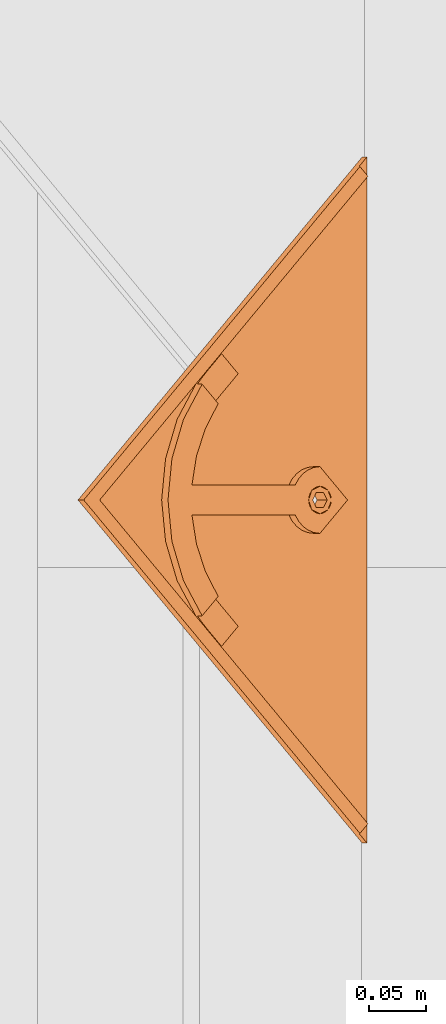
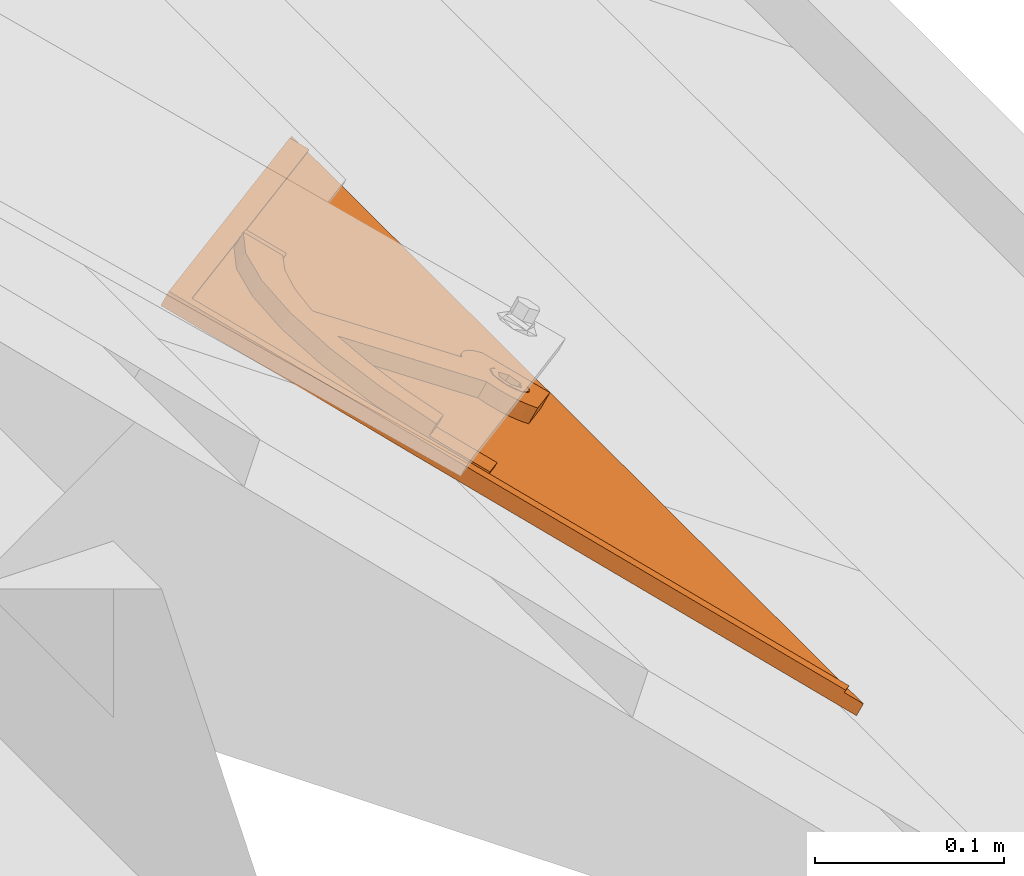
# One storey, part 130 of 151: 1 proxy.
"""IFC2X3 building model written with IfcOpenShell, lengths in millimetres."""

from ifc_helpers import new_model, entity, si_unit, converted_unit, derived_unit, direction, frame, origin, place, context, subcontext, project, spatial, faceted_brep, source, transform, mapped, material, material_list, type_object, type_shapes, element, save


model = new_model("IFC2X3")

# Units and contexts
model_context = context("Model", 3, precision=0.01, world=origin(), true_north=direction((6.12303176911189e-17, 1.0)))
body_context = subcontext(model_context, "Body", "Model", "MODEL_VIEW")
ifc_project = project(units=[si_unit("LENGTHUNIT", "METRE", prefix="MILLI"), si_unit("AREAUNIT", "SQUARE_METRE"), si_unit("VOLUMEUNIT", "CUBIC_METRE"), converted_unit("PLANEANGLEUNIT", "DEGREE", entity("IfcRatioMeasure", 0.0174532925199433), si_unit("PLANEANGLEUNIT", "RADIAN"), dimensions=[0, 0, 0, 0, 0, 0, 0]), si_unit("MASSUNIT", "GRAM", prefix="KILO"), derived_unit("MASSDENSITYUNIT", [(si_unit("MASSUNIT", "GRAM", prefix="KILO"), 1), (si_unit("LENGTHUNIT", "METRE"), -3)]), si_unit("TIMEUNIT", "SECOND"), si_unit("FREQUENCYUNIT", "HERTZ"), si_unit("THERMODYNAMICTEMPERATUREUNIT", "DEGREE_CELSIUS"), derived_unit("THERMALTRANSMITTANCEUNIT", [(si_unit("MASSUNIT", "GRAM", prefix="KILO"), 1), (si_unit("THERMODYNAMICTEMPERATUREUNIT", "KELVIN"), -1), (si_unit("TIMEUNIT", "SECOND"), -3)]), derived_unit("VOLUMETRICFLOWRATEUNIT", [(si_unit("LENGTHUNIT", "METRE"), 3), (si_unit("TIMEUNIT", "SECOND"), -1)]), si_unit("ELECTRICCURRENTUNIT", "AMPERE"), si_unit("ELECTRICVOLTAGEUNIT", "VOLT"), si_unit("POWERUNIT", "WATT"), si_unit("FORCEUNIT", "NEWTON", prefix="KILO"), si_unit("ILLUMINANCEUNIT", "LUX"), si_unit("LUMINOUSFLUXUNIT", "LUMEN"), si_unit("LUMINOUSINTENSITYUNIT", "CANDELA"), derived_unit("USERDEFINED", [(si_unit("MASSUNIT", "GRAM", prefix="KILO"), -1), (si_unit("LENGTHUNIT", "METRE"), -2), (si_unit("TIMEUNIT", "SECOND"), 3), (si_unit("LUMINOUSFLUXUNIT", "LUMEN"), 1)]), derived_unit("LINEARVELOCITYUNIT", [(si_unit("LENGTHUNIT", "METRE"), 1), (si_unit("TIMEUNIT", "SECOND"), -1)]), si_unit("PRESSUREUNIT", "PASCAL"), derived_unit("USERDEFINED", [(si_unit("LENGTHUNIT", "METRE"), -2), (si_unit("MASSUNIT", "GRAM", prefix="KILO"), 1), (si_unit("TIMEUNIT", "SECOND"), -2)])], contexts=[model_context])

# Site, building, storey
site_placement = place(None, origin())
site = spatial("IfcSite", under=ifc_project, at=site_placement, Name="Default", CompositionType="ELEMENT")
building_placement = place(site_placement, origin())
building = spatial("IfcBuilding", under=site, at=building_placement, CompositionType="ELEMENT")
storey_placement = place(building_placement, origin())
storey = spatial("IfcBuildingStorey", under=building, at=storey_placement, Name="Level 1", CompositionType="ELEMENT", Elevation=0.0)

# Proxy
ifc_material_1 = material(Name="Rubber - Sunstyle - Black")
ifc_material_2 = material(Name="Glass - Sunstyle - Tainted Black")
ifc_material_list_1 = material_list([ifc_material_1, ifc_material_2])
ifc_material_list_2 = material_list([ifc_material_1, ifc_material_2])
building_element_proxy_type = type_object("IfcBuildingElementProxyType", Name="Shingle Bottom Small - Black", PredefinedType="NOTDEFINED", material=ifc_material_list_2)
shared_shape = source(origin(), body_context, "Body", "Brep", [
    faceted_brep([(302.08842791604, 44.9093317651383, 22.0558382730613), (302.08842791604, 49.408700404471, 21.980485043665), (293.484723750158, 48.4726030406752, 21.9961623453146), (310.692132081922, 48.4726030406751, 21.9961623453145), (308.728656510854, 53.2419006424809, 21.9162884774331), (314.255903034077, 57.0751008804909, 21.8520919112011), (308.728656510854, 60.9083011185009, 21.7878953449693), (310.692132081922, 65.6775987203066, 21.7080214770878), (302.08842791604, 64.7415013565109, 21.7236987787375), (302.08842791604, 69.2408699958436, 21.6483455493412), (293.484723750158, 65.6775987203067, 21.708021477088), (295.448199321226, 60.908301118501, 21.7878953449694), (289.920952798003, 57.0751008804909, 21.8520919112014), (295.448199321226, 53.2419006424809, 21.9162884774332), (295.448199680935, 60.6403782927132, 5.79013870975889), (302.08842791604, 64.473578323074, 5.72594214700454), (295.448199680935, 52.9739782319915, 5.91853183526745), (302.08842791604, 49.1407782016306, 5.98272839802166), (308.728656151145, 52.9739782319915, 5.91853183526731), (308.728656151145, 60.6403782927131, 5.79013870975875), (293.484723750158, 48.2046804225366, 5.99840570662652), (302.08842791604, 44.6414091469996, 6.05808163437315), (289.920952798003, 56.8071782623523, 5.85433527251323), (293.484723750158, 65.4096761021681, 5.71026483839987), (302.08842791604, 68.972947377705, 5.65058891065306), (310.692132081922, 65.409676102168, 5.71026483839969), (314.255903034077, 56.8071782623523, 5.85433527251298), (310.692132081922, 48.2046804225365, 5.99840570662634)], [[[0, 1, 2]], [[1, 0, 3]], [[3, 4, 1]], [[4, 3, 5]], [[6, 4, 5]], [[5, 7, 6]], [[7, 8, 6]], [[8, 7, 9]], [[8, 9, 10]], [[10, 11, 8]], [[12, 11, 10]], [[2, 13, 12]], [[12, 13, 11]], [[13, 2, 1]], [[8, 11, 14, 15]], [[11, 13, 16, 14]], [[13, 1, 17, 16]], [[1, 4, 18, 17]], [[4, 6, 19, 18]], [[6, 8, 15, 19]], [[20, 17, 21]], [[17, 20, 16]], [[22, 16, 20]], [[14, 16, 22]], [[23, 14, 22]], [[15, 14, 23]], [[23, 24, 15]], [[24, 25, 15]], [[19, 15, 25]], [[19, 25, 26]], [[26, 18, 19]], [[26, 27, 18]], [[17, 18, 27]], [[27, 21, 17]], [[24, 23, 10, 9]], [[10, 23, 22, 12]], [[20, 21, 0, 2]], [[20, 2, 12, 22]], [[21, 27, 3, 0]], [[3, 27, 26, 5]], [[25, 24, 9, 7]], [[25, 7, 5, 26]]]),
    faceted_brep([(587.35835892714, 0.0, 12.5593198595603), (595.843045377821, 8.4846864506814, 12.4172224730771), (595.843045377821, 8.50980419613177, 13.9170121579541), (587.35835892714, 0.0251177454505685, 14.0591095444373), (302.088750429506, 285.189618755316, 7.7831033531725), (16.8191419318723, 0.0, 12.5593198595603), (8.33445548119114, 8.48468645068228, 12.4172224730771), (302.088750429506, 302.156612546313, 7.49894842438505), (302.088750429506, 302.181730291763, 8.9987381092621), (8.33445548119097, 8.50980419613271, 13.9170121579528), (16.8191419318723, 0.0251177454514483, 14.0591095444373), (302.088750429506, 285.214736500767, 9.28289303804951)], [[[0, 1, 2, 3]], [[1, 0, 4, 5, 6, 7]], [[2, 1, 7, 8]], [[3, 2, 8, 9, 10, 11]], [[0, 3, 11, 4]], [[5, 10, 9, 6]], [[8, 7, 6, 9]], [[4, 11, 10, 5]]]),
    faceted_brep([(302.088750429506, 302.156612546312, 7.49894842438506), (305.194256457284, 68.3255429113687, 11.4150370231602), (308.088427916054, 67.1269059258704, 11.4351112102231), (302.088427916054, 68.7343756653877, 11.4081900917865), (310.573709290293, 65.2201498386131, 11.4670446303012), (298.982599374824, 68.3255429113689, 11.4150370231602), (296.088427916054, 67.1269059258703, 11.4351112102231), (293.603146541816, 65.2201498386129, 11.4670446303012), (312.480732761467, 62.7352169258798, 11.5086610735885), (604.177500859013, 0.152567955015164, 12.5567647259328), (291.696123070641, 62.7352169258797, 11.5086610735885), (0.0, 0.152567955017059, 12.5567647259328), (290.497318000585, 59.8414512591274, 11.5571244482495), (290.088427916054, 56.7360581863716, 11.6091320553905), (290.497318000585, 53.6306651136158, 11.6611396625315), (291.696123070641, 50.7368994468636, 11.7096030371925), (293.603146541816, 48.2519665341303, 11.7512194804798), (296.088427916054, 46.3452104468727, 11.7831529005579), (298.982599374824, 45.1465734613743, 11.8032270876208), (302.088427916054, 44.7377407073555, 11.8100740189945), (313.679537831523, 59.8414512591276, 11.5571244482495), (314.088427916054, 56.7360581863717, 11.6091320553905), (313.679537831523, 53.6306651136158, 11.6611396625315), (312.480732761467, 50.7368994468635, 11.7096030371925), (310.573709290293, 48.2519665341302, 11.7512194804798), (308.088427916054, 46.3452104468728, 11.7831529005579), (305.194256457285, 45.1465734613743, 11.8032270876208), (0.0, 0.0269792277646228, 5.0578163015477), (290.088427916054, 56.6104694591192, 4.11018363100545), (290.497318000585, 53.5050763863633, 4.16219123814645), (290.497318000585, 59.7158625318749, 4.05817602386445), (291.696123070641, 50.6113107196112, 4.21065461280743), (291.696123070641, 62.6096281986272, 4.00971264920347), (302.088750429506, 302.031023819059, 0.0), (293.603146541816, 48.1263778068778, 4.25227105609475), (296.088427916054, 46.2196217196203, 4.28420447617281), (298.982599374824, 45.0209847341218, 4.30427866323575), (302.088427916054, 44.612151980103, 4.31112559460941), (604.177500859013, 0.0269792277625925, 5.05781630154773), (293.603146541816, 65.0945611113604, 3.96809620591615), (296.088427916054, 67.0013171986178, 3.93616278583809), (298.982599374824, 68.1999541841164, 3.91608859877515), (302.088427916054, 68.6087869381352, 3.90924166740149), (305.194256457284, 68.1999541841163, 3.91608859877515), (308.088427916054, 67.0013171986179, 3.93616278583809), (310.573709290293, 65.0945611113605, 3.96809620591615), (312.480732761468, 62.6096281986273, 4.00971264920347), (305.194256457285, 45.0209847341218, 4.30427866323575), (308.088427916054, 46.2196217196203, 4.28420447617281), (313.679537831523, 59.7158625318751, 4.05817602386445), (314.088427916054, 56.6104694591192, 4.11018363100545), (313.679537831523, 53.5050763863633, 4.16219123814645), (312.480732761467, 50.611310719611, 4.21065461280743), (310.573709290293, 48.1263778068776, 4.25227105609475)], [[[0, 1, 2]], [[1, 0, 3]], [[0, 2, 4]], [[5, 3, 0]], [[6, 5, 0]], [[0, 7, 6]], [[8, 0, 4]], [[0, 8, 9]], [[7, 0, 10]], [[0, 11, 10]], [[12, 10, 11]], [[11, 13, 12]], [[13, 11, 14]], [[15, 14, 11]], [[11, 16, 15]], [[17, 16, 11]], [[17, 11, 18]], [[19, 18, 11]], [[19, 11, 9]], [[9, 8, 20]], [[20, 21, 9]], [[21, 22, 9]], [[22, 23, 9]], [[9, 23, 24]], [[24, 25, 9]], [[25, 26, 9]], [[9, 26, 19]], [[27, 28, 29]], [[28, 27, 30]], [[27, 29, 31]], [[32, 30, 27]], [[32, 27, 33]], [[31, 34, 27]], [[34, 35, 27]], [[35, 36, 27]], [[36, 37, 27]], [[27, 37, 38]], [[33, 39, 32]], [[40, 39, 33]], [[41, 40, 33]], [[42, 41, 33]], [[33, 43, 42]], [[43, 33, 44]], [[45, 44, 33]], [[33, 46, 45]], [[46, 33, 38]], [[38, 37, 47]], [[47, 48, 38]], [[49, 46, 38]], [[38, 50, 49]], [[50, 38, 51]], [[52, 51, 38]], [[53, 52, 38]], [[53, 38, 48]], [[11, 0, 33, 27]], [[0, 9, 38, 33]], [[13, 28, 30, 12]], [[12, 30, 32, 10]], [[6, 7, 39, 40]], [[39, 7, 10, 32]], [[5, 6, 40, 41]], [[5, 41, 42, 3]], [[3, 42, 43, 1]], [[1, 43, 44, 2]], [[8, 4, 45, 46]], [[45, 4, 2, 44]], [[20, 8, 46, 49]], [[20, 49, 50, 21]], [[21, 50, 51, 22]], [[22, 51, 52, 23]], [[25, 24, 53, 48]], [[53, 24, 23, 52]], [[26, 25, 48, 47]], [[26, 47, 37, 19]], [[19, 37, 36, 18]], [[18, 36, 35, 17]], [[15, 16, 34, 31]], [[34, 16, 17, 35]], [[14, 15, 31, 29]], [[14, 29, 28, 13]], [[9, 11, 27, 38]]]),
    faceted_brep([(190.819384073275, 138.646056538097, 12.7376939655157), (217.144031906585, 164.967013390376, 12.2968834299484), (200.060856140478, 182.04779392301, 12.0108228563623), (193.80845410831, 176.686146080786, 12.100617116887), (187.837458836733, 171.012871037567, 12.1956303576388), (173.141714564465, 156.321247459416, 12.4416784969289), (431.035141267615, 156.321247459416, 12.4416784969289), (416.339396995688, 171.012871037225, 12.1956303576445), (410.36840172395, 176.686146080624, 12.1006171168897), (404.115999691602, 182.047793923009, 12.0108228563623), (387.031626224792, 164.968210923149, 12.2968633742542), (413.357471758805, 138.646056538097, 12.7376939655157), (296.088427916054, 67.294357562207, 21.4337091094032), (288.788427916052, 83.1076295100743, 21.1688761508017), (283.384321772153, 79.569581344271, 21.2281296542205), (293.603146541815, 65.3876014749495, 21.4656425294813), (298.982599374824, 68.4929945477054, 21.4136349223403), (302.088427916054, 68.9018273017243, 21.4067879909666), (315.388427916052, 83.107629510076, 21.1688761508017), (305.194256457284, 68.4929945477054, 21.4136349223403), (308.088427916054, 67.2943575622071, 21.4337091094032), (320.792534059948, 79.5695813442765, 21.2281296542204), (310.573709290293, 65.3876014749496, 21.4656425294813), (325.293078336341, 74.9365758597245, 21.3057209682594), (312.480732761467, 62.9026685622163, 21.5072589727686), (328.672647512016, 69.4324252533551, 21.3979017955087), (313.679537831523, 60.0089028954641, 21.5557223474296), (330.767980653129, 63.323025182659, 21.500219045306), (314.088427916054, 56.9035098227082, 21.6077299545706), (331.477855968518, 56.9035098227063, 21.6077299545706), (313.679537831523, 53.7981167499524, 21.6597375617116), (312.480732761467, 50.9043510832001, 21.7082009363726), (310.573709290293, 48.4194181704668, 21.7498173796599), (302.08842791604, 27.5182024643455, 22.0998607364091), (308.088427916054, 46.5126620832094, 21.7817507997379), (305.194256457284, 45.314025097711, 21.8018249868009), (302.088427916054, 44.9051923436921, 21.8086719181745), (298.982599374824, 45.314025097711, 21.8018249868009), (296.088427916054, 46.5126620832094, 21.7817507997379), (293.603146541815, 48.4194181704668, 21.7498173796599), (272.69899986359, 56.903509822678, 21.6077299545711), (291.696123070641, 50.9043510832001, 21.7082009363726), (290.497318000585, 53.7981167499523, 21.6597375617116), (290.088427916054, 56.9035098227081, 21.6077299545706), (273.408875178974, 63.3230251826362, 21.5002190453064), (290.497318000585, 60.008902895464, 21.5557223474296), (275.504208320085, 69.4324252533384, 21.397901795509), (291.696123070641, 62.9026685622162, 21.5072589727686), (278.883777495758, 74.9365758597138, 21.3057209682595), (288.788427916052, 192.984512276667, 19.3287117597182), (315.388427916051, 192.984512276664, 19.3287117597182), (302.088427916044, 218.456125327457, 18.9021256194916), (338.579268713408, 214.282159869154, 18.9720291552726), (340.858170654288, 188.169632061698, 19.4093490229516), (373.184513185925, 201.975945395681, 19.1781276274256), (365.012761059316, 178.765998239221, 19.5668364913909), (404.115999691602, 182.173382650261, 19.5097712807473), (387.032823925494, 165.092602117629, 19.7958318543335), (265.59758711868, 214.28215986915, 18.9720291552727), (263.318685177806, 188.169632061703, 19.4093490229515), (230.992342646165, 201.975945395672, 19.1781276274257), (239.164094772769, 178.765998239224, 19.5668364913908), (200.06085614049, 182.173382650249, 19.5097712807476), (217.144031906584, 165.092602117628, 19.7958318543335), (302.08842791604, 27.3507508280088, 12.1012628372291), (302.088427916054, 44.7377407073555, 11.8100740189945), (305.194256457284, 45.1465734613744, 11.8032270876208), (298.982599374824, 45.1465734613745, 11.8032270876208), (308.088427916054, 46.3452104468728, 11.7831529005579), (310.573709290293, 48.2519665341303, 11.7512194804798), (331.477855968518, 56.7360581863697, 11.6091320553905), (296.088427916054, 46.3452104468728, 11.7831529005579), (293.603146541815, 48.2519665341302, 11.7512194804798), (272.69899986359, 56.7360581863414, 11.609132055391), (291.696123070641, 50.7368994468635, 11.7096030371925), (290.497318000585, 53.6306651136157, 11.6611396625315), (290.088427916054, 56.7360581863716, 11.6091320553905), (273.408875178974, 63.1555735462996, 11.5016211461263), (290.497318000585, 59.8414512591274, 11.5571244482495), (275.504208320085, 69.2649736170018, 11.3993038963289), (291.696123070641, 62.7352169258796, 11.5086610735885), (278.883777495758, 74.7691242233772, 11.3071230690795), (293.603146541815, 65.2201498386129, 11.4670446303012), (283.384321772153, 79.4021297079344, 11.2295317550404), (296.088427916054, 67.1269059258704, 11.4351112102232), (288.788427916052, 82.9401778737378, 11.1702782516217), (298.982599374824, 68.3255429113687, 11.4150370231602), (302.088427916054, 68.7343756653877, 11.4081900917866), (315.388427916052, 82.9401778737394, 11.1702782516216), (288.788427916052, 192.81706064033, 9.33011386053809), (315.388427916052, 192.817060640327, 9.33011386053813), (302.088427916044, 218.28867369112, 8.90352772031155), (265.59758711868, 214.114708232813, 8.97343125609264), (263.318685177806, 188.002180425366, 9.41075112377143), (230.992342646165, 201.808493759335, 9.17952972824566), (239.164094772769, 178.598546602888, 9.56823859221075), (200.06085614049, 182.005931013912, 9.51117338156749), (217.145229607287, 164.926348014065, 9.79721389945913), (193.80845410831, 176.644283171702, 9.60096764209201), (187.837458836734, 170.971008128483, 9.69598088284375), (190.819384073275, 138.604193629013, 10.2380444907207), (173.141714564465, 156.279384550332, 9.94202902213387), (338.579268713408, 214.114708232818, 8.97343125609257), (340.858170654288, 188.002180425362, 9.41075112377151), (373.184513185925, 201.808493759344, 9.17952972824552), (365.012761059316, 178.598546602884, 9.5682385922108), (404.115999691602, 182.005931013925, 9.51117338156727), (387.032823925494, 164.925150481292, 9.79723395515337), (410.36840172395, 176.64428317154, 9.60096764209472), (416.339396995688, 170.971008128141, 9.69598088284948), (413.357471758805, 138.604193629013, 10.2380444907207), (431.035141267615, 156.279384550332, 9.94202902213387), (305.194256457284, 68.3255429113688, 11.4150370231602), (308.088427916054, 67.1269059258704, 11.4351112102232), (320.792534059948, 79.4021297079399, 11.2295317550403), (310.573709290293, 65.220149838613, 11.4670446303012), (325.293078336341, 74.7691242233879, 11.3071230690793), (312.480732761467, 62.7352169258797, 11.5086610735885), (328.672647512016, 69.2649736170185, 11.3993038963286), (313.679537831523, 59.8414512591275, 11.5571244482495), (330.767980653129, 63.1555735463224, 11.5016211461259), (314.088427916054, 56.7360581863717, 11.6091320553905), (312.480732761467, 50.7368994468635, 11.7096030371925), (313.679537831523, 53.6306651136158, 11.6611396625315)], [[[0, 1, 2, 3, 4, 5]], [[6, 7, 8, 9, 10, 11]], [[12, 13, 14]], [[12, 14, 15]], [[16, 13, 12]], [[17, 13, 16]], [[18, 13, 17]], [[17, 19, 18]], [[19, 20, 18]], [[20, 21, 18]], [[21, 20, 22]], [[21, 22, 23]], [[24, 23, 22]], [[23, 24, 25]], [[24, 26, 25]], [[27, 25, 26]], [[26, 28, 27]], [[29, 27, 28]], [[28, 30, 29]], [[30, 31, 29]], [[29, 31, 32]], [[32, 33, 29]], [[32, 34, 33]], [[35, 33, 34]], [[36, 33, 35]], [[33, 36, 37]], [[38, 33, 37]], [[38, 39, 33]], [[40, 33, 39]], [[41, 40, 39]], [[41, 42, 40]], [[42, 43, 40]], [[43, 44, 40]], [[45, 44, 43]], [[45, 46, 44]], [[45, 47, 46]], [[48, 46, 47]], [[48, 47, 15]], [[48, 15, 14]], [[18, 49, 13]], [[50, 49, 18]], [[51, 49, 50]], [[50, 52, 51]], [[50, 53, 52]], [[52, 53, 54]], [[53, 55, 54]], [[56, 54, 55]], [[57, 56, 55]], [[58, 49, 51]], [[49, 58, 59]], [[60, 59, 58]], [[60, 61, 59]], [[61, 60, 62]], [[62, 63, 61]], [[64, 65, 66]], [[65, 64, 67]], [[64, 66, 68]], [[68, 69, 64]], [[64, 69, 70]], [[71, 67, 64]], [[71, 64, 72]], [[72, 64, 73]], [[73, 74, 72]], [[74, 73, 75]], [[75, 73, 76]], [[77, 76, 73]], [[76, 77, 78]], [[78, 77, 79]], [[80, 78, 79]], [[81, 80, 79]], [[82, 80, 81]], [[83, 82, 81]], [[83, 84, 82]], [[85, 84, 83]], [[85, 86, 84]], [[87, 86, 85]], [[88, 87, 85]], [[89, 88, 85]], [[88, 89, 90]], [[89, 91, 90]], [[91, 89, 92]], [[93, 92, 89]], [[92, 93, 94]], [[95, 94, 93]], [[96, 94, 95]], [[95, 97, 96]], [[97, 98, 96]], [[98, 97, 99]], [[97, 100, 99]], [[99, 100, 101]], [[90, 91, 102]], [[103, 90, 102]], [[103, 102, 104]], [[105, 103, 104]], [[106, 105, 104]], [[107, 105, 106]], [[106, 108, 107]], [[109, 107, 108]], [[110, 107, 109]], [[109, 111, 110]], [[112, 87, 88]], [[113, 112, 88]], [[114, 113, 88]], [[115, 113, 114]], [[115, 114, 116]], [[116, 117, 115]], [[117, 116, 118]], [[118, 119, 117]], [[120, 119, 118]], [[121, 120, 70]], [[120, 121, 119]], [[70, 69, 122]], [[122, 123, 70]], [[123, 121, 70]], [[13, 49, 89, 85]], [[14, 13, 85, 83]], [[48, 14, 83, 81]], [[81, 79, 46, 48]], [[44, 46, 79, 77]], [[40, 44, 77, 73]], [[33, 40, 73, 64]], [[0, 5, 101, 100]], [[29, 33, 64, 70]], [[6, 11, 110, 111]], [[27, 29, 70, 120]], [[25, 27, 120, 118]], [[118, 116, 23, 25]], [[21, 23, 116, 114]], [[18, 21, 114, 88]], [[50, 18, 88, 90]], [[9, 106, 104, 54, 56]], [[52, 54, 104, 102]], [[51, 52, 102, 91]], [[58, 51, 91, 92]], [[94, 96, 2, 62, 60]], [[60, 58, 92, 94]], [[43, 76, 78, 45]], [[45, 78, 80, 47]], [[12, 15, 82, 84]], [[80, 82, 15, 47]], [[16, 12, 84, 86]], [[87, 17, 16, 86]], [[19, 112, 113, 20]], [[20, 113, 115, 22]], [[26, 24, 117, 119]], [[115, 117, 24, 22]], [[28, 26, 119, 121]], [[19, 17, 87, 112]], [[28, 121, 123, 30]], [[30, 123, 122, 31]], [[34, 32, 69, 68]], [[122, 69, 32, 31]], [[35, 34, 68, 66]], [[65, 36, 35, 66]], [[37, 67, 71, 38]], [[38, 71, 72, 39]], [[42, 41, 74, 75]], [[72, 74, 41, 39]], [[43, 42, 75, 76]], [[37, 36, 65, 67]], [[7, 6, 111, 109]], [[7, 109, 108, 8]], [[108, 106, 9, 8]], [[11, 10, 107, 110]], [[1, 0, 100, 97]], [[2, 96, 98, 3]], [[98, 99, 4, 3]], [[5, 4, 99, 101]], [[63, 62, 2, 1]], [[56, 57, 10]], [[10, 9, 56]], [[1, 95, 61, 63]], [[1, 97, 95]], [[93, 89, 49, 59]], [[95, 93, 59, 61]], [[90, 103, 53, 50]], [[103, 105, 55, 53]], [[10, 57, 55]], [[107, 10, 105]], [[55, 105, 10]]]),
])
type_shapes(building_element_proxy_type, [shared_shape])
proxy_placement = place(storey_placement, frame((4560.90421878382, -4387.25605832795, 520.069325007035), z_axis=(0.573576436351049, 0.0, 0.81915204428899), x_axis=(0.0, 1.0, 0.0)))
element("IfcBuildingElementProxy", 1, at=proxy_placement, inside=storey, type_object=building_element_proxy_type, material=ifc_material_list_1, Name="Roofing_Panels_SunStyle_Tile_Shingle-Bottom-Small:Shingle Bottom Small - Black", ObjectType="Roofing_Panels_SunStyle_Tile_Shingle-Bottom-Small:Shingle Bottom Small - Black", context=body_context, shape_type="MappedRepresentation", body=[
    mapped(shared_shape, transform((0.0, 0.0, 0.0), scale=1.0)),
])

save(model, "model.ifc")
